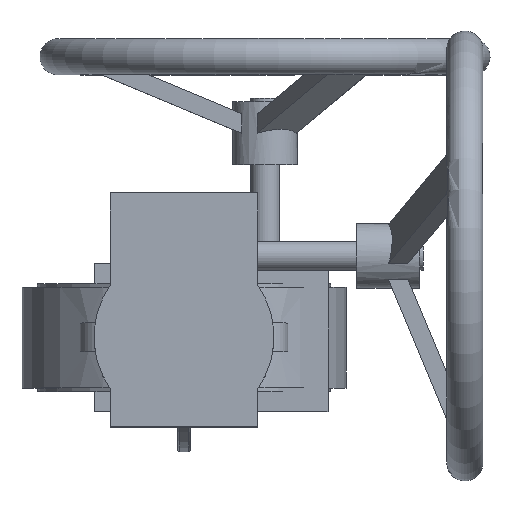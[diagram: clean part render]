
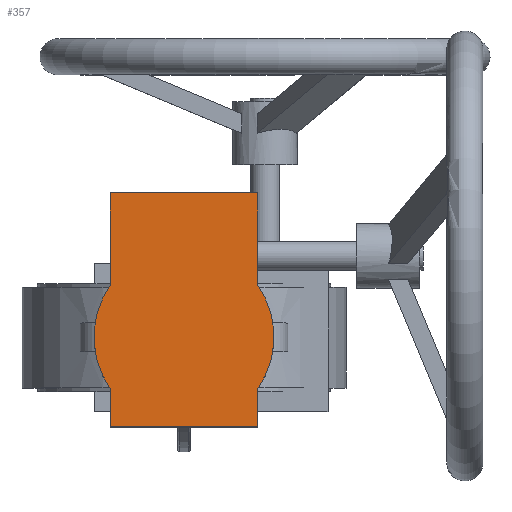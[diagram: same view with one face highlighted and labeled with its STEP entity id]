
A CAD part, top view. The second image highlights one B-rep face of the part: STEP entity #357.
In plain terms, the highlighted planar face has unit normal (0, 0, 1) as drawn and (0, 0, -1) by its records, which use the part's own axes.
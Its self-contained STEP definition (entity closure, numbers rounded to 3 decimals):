
#357 = ADVANCED_FACE( '', ( #911 ), #912, .F. );
#911 = FACE_OUTER_BOUND( '', #1798, .T. );
#912 = PLANE( '', #1799 );
#1798 = EDGE_LOOP( '', ( #3957, #3958, #3959, #3960, #3961, #3962, #3963, #3964 ) );
#1799 = AXIS2_PLACEMENT_3D( '', #3965, #3966, #3967 );
#3957 = ORIENTED_EDGE( '', *, *, #6330, .F. );
#3958 = ORIENTED_EDGE( '', *, *, #6331, .F. );
#3959 = ORIENTED_EDGE( '', *, *, #6199, .F. );
#3960 = ORIENTED_EDGE( '', *, *, #6332, .F. );
#3961 = ORIENTED_EDGE( '', *, *, #6333, .F. );
#3962 = ORIENTED_EDGE( '', *, *, #6334, .F. );
#3963 = ORIENTED_EDGE( '', *, *, #6335, .F. );
#3964 = ORIENTED_EDGE( '', *, *, #6336, .F. );
#3965 = CARTESIAN_POINT( '', ( 0., 0., 0. ) );
#3966 = DIRECTION( '', ( 0., 0., 1. ) );
#3967 = DIRECTION( '', ( 1., 0., 0. ) );
#6199 = EDGE_CURVE( '', #7110, #7112, #7113, .T. );
#6330 = EDGE_CURVE( '', #7335, #7336, #7337, .T. );
#6331 = EDGE_CURVE( '', #7112, #7335, #7338, .T. );
#6332 = EDGE_CURVE( '', #7339, #7110, #7340, .T. );
#6333 = EDGE_CURVE( '', #7341, #7339, #7342, .T. );
#6334 = EDGE_CURVE( '', #7343, #7341, #7344, .T. );
#6335 = EDGE_CURVE( '', #7345, #7343, #7346, .T. );
#6336 = EDGE_CURVE( '', #7336, #7345, #7347, .T. );
#7110 = VERTEX_POINT( '', #8673 );
#7112 = VERTEX_POINT( '', #8676 );
#7113 = LINE( '', #8677, #8678 );
#7335 = VERTEX_POINT( '', #9483 );
#7336 = VERTEX_POINT( '', #9484 );
#7337 = CIRCLE( '', #9485, 50. );
#7338 = LINE( '', #9486, #9487 );
#7339 = VERTEX_POINT( '', #9488 );
#7340 = LINE( '', #9489, #9490 );
#7341 = VERTEX_POINT( '', #9491 );
#7342 = CIRCLE( '', #9492, 50. );
#7343 = VERTEX_POINT( '', #9493 );
#7344 = LINE( '', #9494, #9495 );
#7345 = VERTEX_POINT( '', #9496 );
#7346 = LINE( '', #9497, #9498 );
#7347 = LINE( '', #9499, #9500 );
#8673 = CARTESIAN_POINT( '', ( -50., 41., 0. ) );
#8676 = CARTESIAN_POINT( '', ( -50., -41., 0. ) );
#8677 = CARTESIAN_POINT( '', ( -50., 41., 0. ) );
#8678 = VECTOR( '', #14400, 1000. );
#9483 = CARTESIAN_POINT( '', ( -28.618, -41., 0. ) );
#9484 = CARTESIAN_POINT( '', ( 28.618, -41., 0. ) );
#9485 = AXIS2_PLACEMENT_3D( '', #14523, #14524, #14525 );
#9486 = CARTESIAN_POINT( '', ( -50., -41., 0. ) );
#9487 = VECTOR( '', #14526, 1000. );
#9488 = CARTESIAN_POINT( '', ( -28.618, 41., 0. ) );
#9489 = CARTESIAN_POINT( '', ( -28.618, 41., 0. ) );
#9490 = VECTOR( '', #14527, 1000. );
#9491 = CARTESIAN_POINT( '', ( 28.618, 41., 0. ) );
#9492 = AXIS2_PLACEMENT_3D( '', #14528, #14529, #14530 );
#9493 = CARTESIAN_POINT( '', ( 80., 41., 0. ) );
#9494 = CARTESIAN_POINT( '', ( 80., 41., 0. ) );
#9495 = VECTOR( '', #14531, 1000. );
#9496 = CARTESIAN_POINT( '', ( 80., -41., 0. ) );
#9497 = CARTESIAN_POINT( '', ( 80., -41., 0. ) );
#9498 = VECTOR( '', #14532, 1000. );
#9499 = CARTESIAN_POINT( '', ( 28.618, -41., 0. ) );
#9500 = VECTOR( '', #14533, 1000. );
#14400 = DIRECTION( '', ( 0., -1., 0. ) );
#14523 = CARTESIAN_POINT( '', ( 0., 0., 0. ) );
#14524 = DIRECTION( '', ( 0., 0., 1. ) );
#14525 = DIRECTION( '', ( 1., 0., 0. ) );
#14526 = DIRECTION( '', ( 1., 0., 0. ) );
#14527 = DIRECTION( '', ( -1., 0., 0. ) );
#14528 = CARTESIAN_POINT( '', ( 0., 0., 0. ) );
#14529 = DIRECTION( '', ( 0., 0., 1. ) );
#14530 = DIRECTION( '', ( 1., 0., 0. ) );
#14531 = DIRECTION( '', ( -1., 0., 0. ) );
#14532 = DIRECTION( '', ( 0., 1., 0. ) );
#14533 = DIRECTION( '', ( 1., 0., 0. ) );
